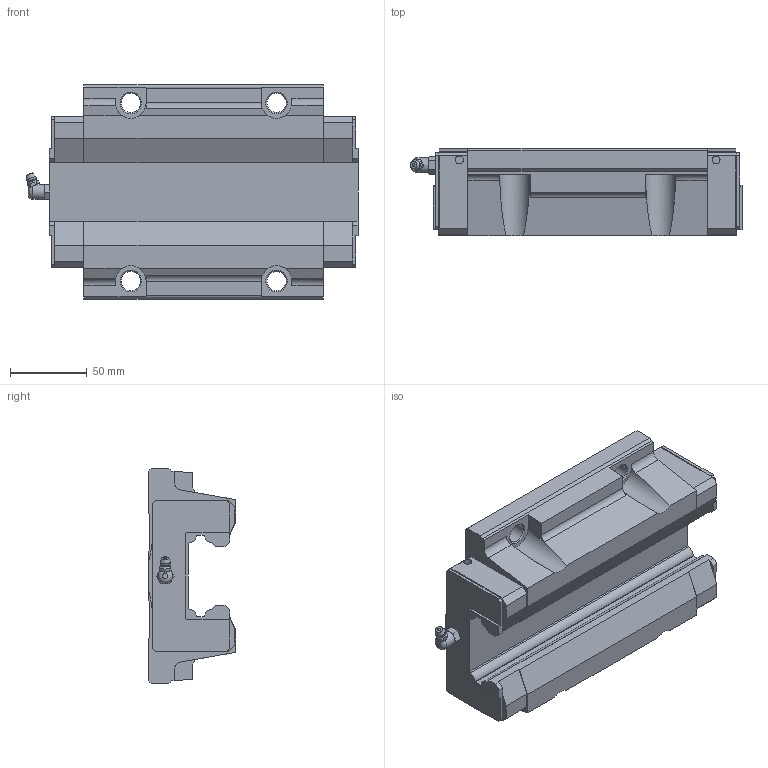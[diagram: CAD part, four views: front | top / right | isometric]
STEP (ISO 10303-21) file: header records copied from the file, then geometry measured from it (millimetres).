
FILE_DESCRIPTION(/* description */ ('STEP AP203'),/* implementation_level */ '2;1');
FILE_NAME(/* name */ 'HSR55LC1SS(GK) BLOCK(1B-PT1_8)',/* time_stamp */ '2024-05-21T04:59:11+02:00',/* author */ ('License CC BY-ND 4.0'),/* organization */ ('CADENAS'),/* preprocessor_version */ 'ST-DEVELOPER v19.3',/* originating_system */ 'PARTsolutions',/* authorisation */ ' ');
FILE_SCHEMA (('CONFIG_CONTROL_DESIGN'));
Length unit declared in the file: millimetre
Products named in the file (3): HSR55LC1SS(GK) BLOCK(1B-PT1/8); HSR55LCSSB-PT1/811 S; hsr_ftht_B-PT1/8_grease_nipple_joint
Assembly tree (2 placements, depth 2):
  HSR55LC1SS(GK) BLOCK(1B-PT1/8)
    HSR55LCSSB-PT1/811 S
    hsr_ftht_B-PT1/8_grease_nipple_joint
Bounding box: 216.3 x 57 x 140 mm (x, y, z)
Volume: 967199.9 mm3; surface area: 101247.4 mm2
Topology: 2 solids, 2 shells, 223 faces, 610 edges, 399 vertices
Faces by surface type: plane 165, cylinder 33, cone 20, torus 3, sphere 2
Full cylindrical faces by diameter (mm): 5.2 x4, 9.6 x1, 10.2 x2, 12.5 x4
Entity records: 6826 total; most frequent: CARTESIAN_POINT 1319, ORIENTED_EDGE 1114, DIRECTION 1072, EDGE_CURVE 557, LINE 424, VECTOR 424, VERTEX_POINT 384, AXIS2_PLACEMENT_3D 324
